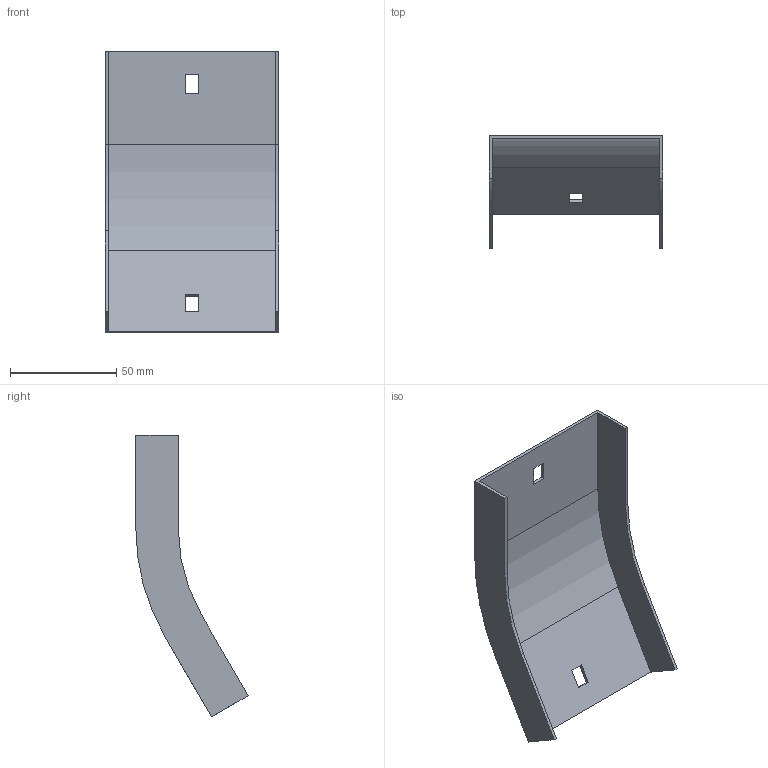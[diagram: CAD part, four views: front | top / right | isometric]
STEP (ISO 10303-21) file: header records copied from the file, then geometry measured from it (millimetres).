
FILE_DESCRIPTION (( 'STEP AP214' ), '1' );
FILE_NAME ('35G1B075.step', '2025-02-21T12:41:01', ( '' ), ( '' ), 'SwSTEP 2.0', 'SolidWorks 2023', '' );
FILE_SCHEMA (( 'AUTOMOTIVE_DESIGN' ));
Length unit declared in the file: millimetre
Products named in the file (1): 35G1B075
Bounding box: 82 x 52.92 x 132.86 mm (x, y, z)
Volume: 24658.2 mm3; surface area: 33720.8 mm2
Topology: 1 solids, 1 shells, 26 faces, 72 edges, 48 vertices
Faces by surface type: plane 22, cylinder 4
Entity records: 855 total; most frequent: CARTESIAN_POINT 147, ORIENTED_EDGE 144, DIRECTION 134, EDGE_CURVE 72, LINE 64, VECTOR 64, VERTEX_POINT 48, AXIS2_PLACEMENT_3D 35
